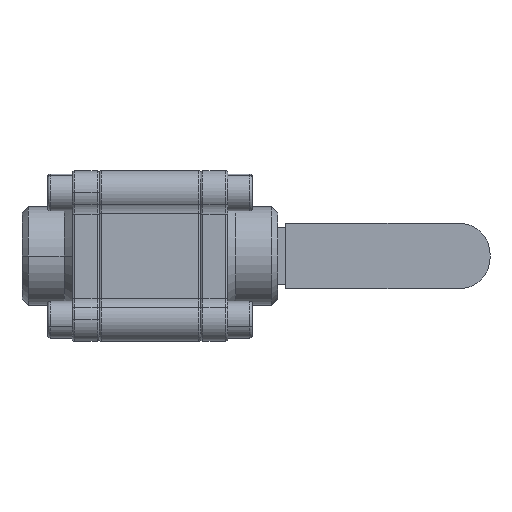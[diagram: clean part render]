
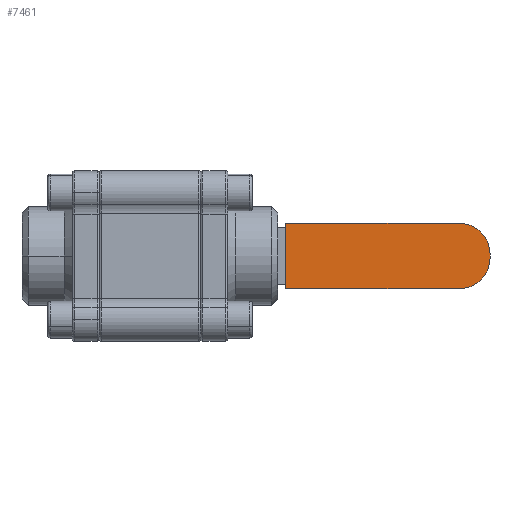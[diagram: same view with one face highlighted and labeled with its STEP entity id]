
A CAD part, front view. The second image highlights one B-rep face of the part: STEP entity #7461.
In plain terms, the highlighted planar face has unit normal (0, -1, 0).
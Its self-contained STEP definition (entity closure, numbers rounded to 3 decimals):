
#388 = CARTESIAN_POINT ( 'NONE',  ( 166.284, 27.284, -16. ) ) ;
#396 = PLANE ( 'NONE',  #8768 ) ;
#408 = DIRECTION ( 'NONE',  ( 0., -1., 0. ) ) ;
#409 = DIRECTION ( 'NONE',  ( 0., 0., -1. ) ) ;
#656 = CARTESIAN_POINT ( 'NONE',  ( 66.284, 27.284, -16. ) ) ;
#657 = CARTESIAN_POINT ( 'NONE',  ( 166.284, 27.284, -1. ) ) ;
#659 = CARTESIAN_POINT ( 'NONE',  ( 166.284, 27.284, 1. ) ) ;
#660 = CARTESIAN_POINT ( 'NONE',  ( 151.284, 27.284, -16. ) ) ;
#670 = CARTESIAN_POINT ( 'NONE',  ( 151.284, 27.284, 16. ) ) ;
#671 = CARTESIAN_POINT ( 'NONE',  ( 66.284, 27.284, 16. ) ) ;
#1487 = AXIS2_PLACEMENT_3D ( 'NONE', #3042, #3043, #3044 ) ;
#1491 = AXIS2_PLACEMENT_3D ( 'NONE', #3070, #3071, #3072 ) ;
#1759 = EDGE_CURVE ( 'NONE', #7554, #7552, #4105, .T. ) ;
#1760 = EDGE_CURVE ( 'NONE', #7555, #7552, #4119, .T. ) ;
#1773 = EDGE_CURVE ( 'NONE', #7554, #7565, #4144, .T. ) ;
#1804 = EDGE_CURVE ( 'NONE', #7555, #7551, #4198, .T. ) ;
#1910 = EDGE_CURVE ( 'NONE', #7566, #7565, #4305, .T. ) ;
#1912 = EDGE_CURVE ( 'NONE', #7551, #7566, #4342, .T. ) ;
#2606 = FACE_OUTER_BOUND ( 'NONE', #7279, .T. ) ;
#3038 = CARTESIAN_POINT ( 'NONE',  ( 166.284, 27.284, 16. ) ) ;
#3041 = DIRECTION ( 'NONE',  ( 0., 0., -1. ) ) ;
#3042 = CARTESIAN_POINT ( 'NONE',  ( 151.284, 27.284, -1. ) ) ;
#3043 = DIRECTION ( 'NONE',  ( 0., -1., 0. ) ) ;
#3044 = DIRECTION ( 'NONE',  ( 0., 0., -1. ) ) ;
#3070 = CARTESIAN_POINT ( 'NONE',  ( 151.284, 27.284, 1. ) ) ;
#3071 = DIRECTION ( 'NONE',  ( 0., -1., 0. ) ) ;
#3072 = DIRECTION ( 'NONE',  ( 0., 0., -1. ) ) ;
#3139 = CARTESIAN_POINT ( 'NONE',  ( 66.284, 27.284, -16. ) ) ;
#3140 = DIRECTION ( 'NONE',  ( -1., 0., 0. ) ) ;
#3421 = CARTESIAN_POINT ( 'NONE',  ( 66.284, 27.284, 16. ) ) ;
#3422 = DIRECTION ( 'NONE',  ( 1., 0., 0. ) ) ;
#3425 = CARTESIAN_POINT ( 'NONE',  ( 66.284, 27.284, 16. ) ) ;
#3426 = DIRECTION ( 'NONE',  ( 0., 0., 1. ) ) ;
#4105 = LINE ( 'NONE', #3038, #4115 ) ;
#4115 = VECTOR ( 'NONE', #3041, 1000. ) ;
#4119 = CIRCLE ( 'NONE', #1487, 15. ) ;
#4144 = CIRCLE ( 'NONE', #1491, 15. ) ;
#4198 = LINE ( 'NONE', #3139, #4199 ) ;
#4199 = VECTOR ( 'NONE', #3140, 1000. ) ;
#4305 = LINE ( 'NONE', #3421, #4308 ) ;
#4308 = VECTOR ( 'NONE', #3422, 1000. ) ;
#4342 = LINE ( 'NONE', #3425, #4343 ) ;
#4343 = VECTOR ( 'NONE', #3426, 1000. ) ;
#5279 = ORIENTED_EDGE ( 'NONE', *, *, #1910, .F. ) ;
#5280 = ORIENTED_EDGE ( 'NONE', *, *, #1760, .T. ) ;
#5281 = ORIENTED_EDGE ( 'NONE', *, *, #1804, .F. ) ;
#5282 = ORIENTED_EDGE ( 'NONE', *, *, #1773, .T. ) ;
#5289 = ORIENTED_EDGE ( 'NONE', *, *, #1912, .F. ) ;
#5306 = ORIENTED_EDGE ( 'NONE', *, *, #1759, .F. ) ;
#7279 = EDGE_LOOP ( 'NONE', ( #5306, #5282, #5279, #5289, #5281, #5280 ) ) ;
#7461 = ADVANCED_FACE ( 'NONE', ( #2606 ), #396, .T. ) ;
#7551 = VERTEX_POINT ( 'NONE', #656 ) ;
#7552 = VERTEX_POINT ( 'NONE', #657 ) ;
#7554 = VERTEX_POINT ( 'NONE', #659 ) ;
#7555 = VERTEX_POINT ( 'NONE', #660 ) ;
#7565 = VERTEX_POINT ( 'NONE', #670 ) ;
#7566 = VERTEX_POINT ( 'NONE', #671 ) ;
#8768 = AXIS2_PLACEMENT_3D ( 'NONE', #388, #408, #409 ) ;
